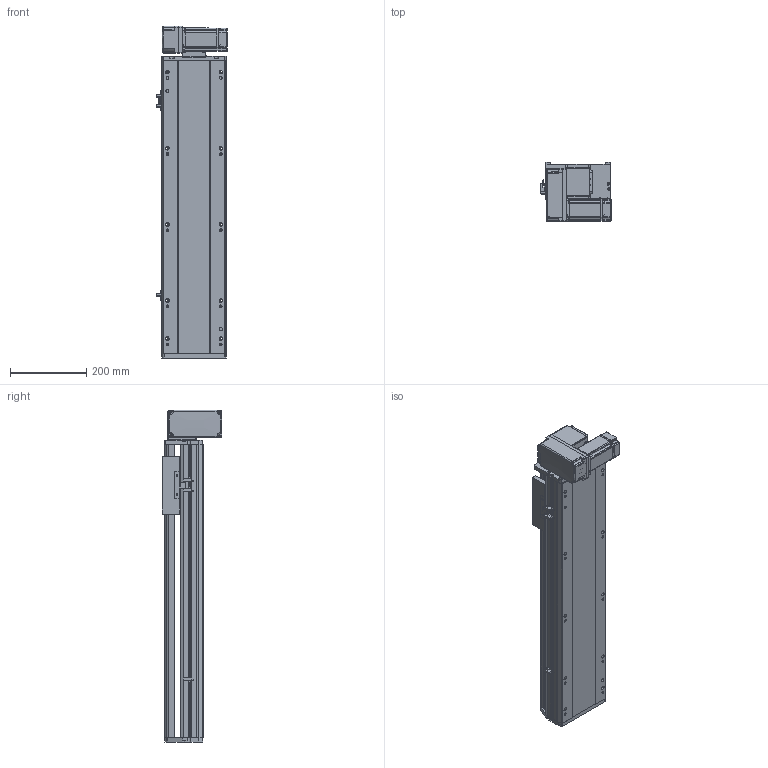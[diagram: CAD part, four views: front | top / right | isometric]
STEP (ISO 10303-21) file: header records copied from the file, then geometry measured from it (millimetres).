
FILE_DESCRIPTION (( 'STEP AP214' ), '1' );
FILE_NAME ('RTB17S-XX-500-LM-M40-C4.STEP', '2025-12-11T06:22:52', ( '' ), ( '' ), 'SwSTEP 2.0', 'SolidWorks 2018', '' );
FILE_SCHEMA (( 'AUTOMOTIVE_DESIGN' ));
Length unit declared in the file: millimetre
Products named in the file (14): RTB17S-L-001耜醱啣^RTB17S-XX-XX-LM-M40-C4; 400W侜督萇儂^RTB17S-XX-XX-LM-M40-C4; OMRON EE-SX672 传感器^RTB17S-XX-XX-LM-M40-C4; RTB17S-XX-500-LM-M40-C4; RTH13-BL-012覜茼え俋离^RTB17S-XX-XX-LM-M40-C4; RTB14-L-008-M20--萇儂啣^RTB17S-LM-々湍釱蚾饜-400W_RTB17S-XX-XX-LM-M40-C4; RTB17S-LM-々湍釱蚾饜-400W^RTB17S-XX-XX-LM-M40-C4; RMP17S-L-014-T20--々湍釱^RTB17S-LM-々湍釱蚾饜-400W_RTB17S-XX-XX-LM-M40-C4; RTB17-R-011菁釱^RTB17S-XX-XX-LM-M40-C4; RTB17S-L-004佪裝蹟譫蟀諉釱^RTB17S-XX-XX-LM-M40-C4; RTB14-L-017P^RTB17S-LM-々湍釱蚾饜-400W_RTB17S-XX-XX-LM-M40-C4; RTB17S-L-007奻裔^RTB17S-XX-XX-LM-M40-C4; RTB14-L-005P--轴承塑胶压盖^RTB17S-LM-皮带座装配-400W_RTB17S-XX-XX-LM-M40-C4; RTB14-L-018P^RTB17S-LM-々湍釱蚾饜-400W_RTB17S-XX-XX-LM-M40-C4
Assembly tree (16 placements, depth 3):
  RTB17S-XX-500-LM-M40-C4
    RTB17-R-011菁釱^RTB17S-XX-XX-LM-M40-C4
    RTB17S-L-007奻裔^RTB17S-XX-XX-LM-M40-C4
    OMRON EE-SX672 传感器^RTB17S-XX-XX-LM-M40-C4  x3
    RTH13-BL-012覜茼え俋离^RTB17S-XX-XX-LM-M40-C4
    RTB17S-L-001耜醱啣^RTB17S-XX-XX-LM-M40-C4
    400W侜督萇儂^RTB17S-XX-XX-LM-M40-C4
    RTB17S-L-004佪裝蹟譫蟀諉釱^RTB17S-XX-XX-LM-M40-C4
    RTB17S-LM-々湍釱蚾饜-400W^RTB17S-XX-XX-LM-M40-C4
      RMP17S-L-014-T20--々湍釱^RTB17S-LM-々湍釱蚾饜-400W_RTB17S-XX-XX-LM-M40-C4
      RTB14-L-005P--轴承塑胶压盖^RTB17S-LM-皮带座装配-400W_RTB17S-XX-XX-LM-M40-C4
      RTB14-L-008-M20--萇儂啣^RTB17S-LM-々湍釱蚾饜-400W_RTB17S-XX-XX-LM-M40-C4
      RTB14-L-017P^RTB17S-LM-々湍釱蚾饜-400W_RTB17S-XX-XX-LM-M40-C4  x2
      RTB14-L-018P^RTB17S-LM-々湍釱蚾饜-400W_RTB17S-XX-XX-LM-M40-C4
Bounding box: 186 x 156.5 x 872.5 mm (x, y, z)
Volume: 8294293.3 mm3; surface area: 1054318.5 mm2
Topology: 15 solids, 15 shells, 2173 faces, 5979 edges, 3897 vertices
Faces by surface type: plane 1064, cylinder 661, bspline 301, cone 139, torus 8
Entity records: 61097 total; most frequent: CARTESIAN_POINT 16984, ORIENTED_EDGE 8802, DIRECTION 8216, EDGE_CURVE 4401, VERTEX_POINT 2885, AXIS2_PLACEMENT_3D 2815, LINE 2586, VECTOR 2586
